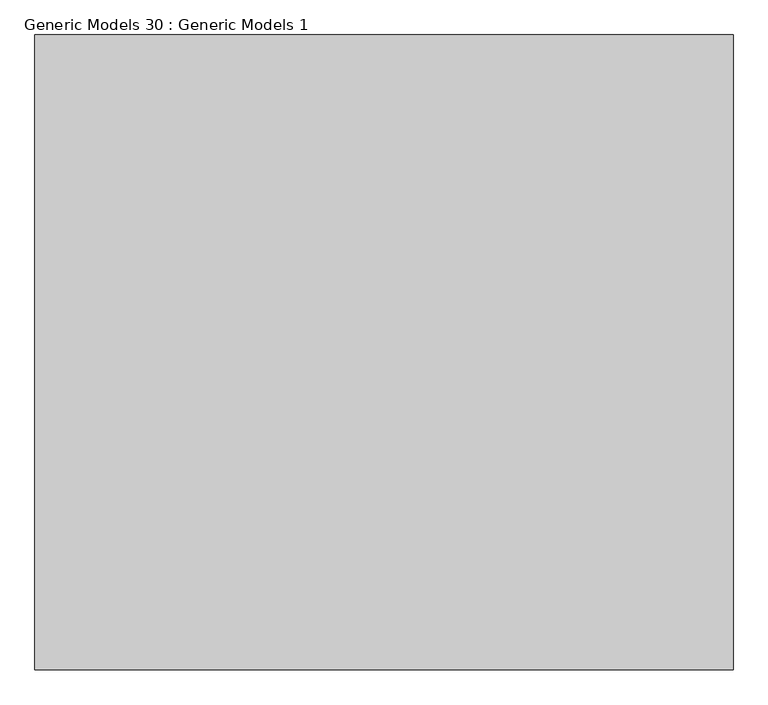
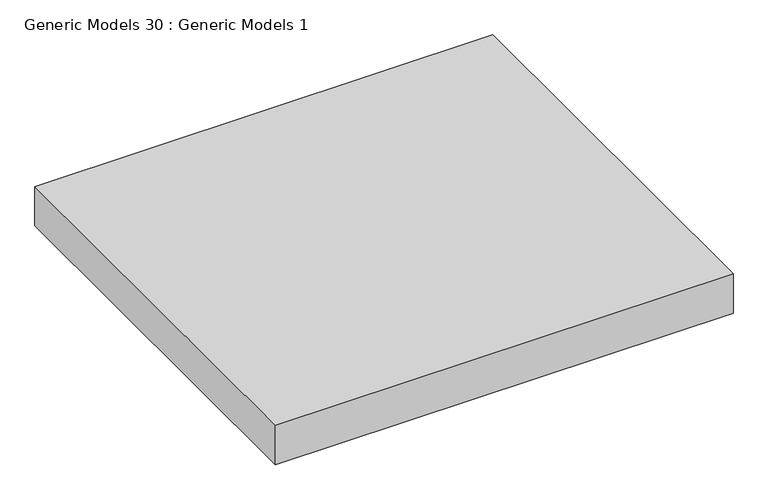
"""IFC4 building model written with IfcOpenShell, lengths in millimetres: proxy geometry, Generic Models 30 : Generic Models 1."""

from ifc_helpers import new_model, si_unit, origin, origin_with_axes, place, context, project, spatial, polyline, outline, extrude, source, transform, mapped, element, save


def generic_models_30_generic_models_1_937ea5b0(model_context):
    return source(origin(), model_context, "Body", "SweptSolid", [
        extrude(outline(polyline([(9644.9769358, -4286.5772826), (9644.9769358, -3286.5772826), (10744.9769358, -3286.5772826), (10744.9769358, -4286.5772826), (9644.9769358, -4286.5772826)])), origin_with_axes(), (0.0, 0.0, 1.0), 100.0),
    ])


if __name__ == "__main__":
    model = new_model("IFC4")
    model_context = context("Model", 3, world=origin())
    ifc_project = project(units=[si_unit("LENGTHUNIT", "METRE", prefix="MILLI")], contexts=[model_context])
    site = spatial("IfcSite", under=ifc_project)
    building = spatial("IfcBuilding", under=site)
    placement = place(None, origin())
    generic_models_30_generic_models_1_shape = generic_models_30_generic_models_1_937ea5b0(model_context)
    element("IfcBuildingElementProxy", 1, Name="Generic Models 30 : Generic Models 1", ObjectType="Generic Models 30 : Generic Models 1", at=placement, inside=building, context=model_context, shape_type="MappedRepresentation", body=[
        mapped(generic_models_30_generic_models_1_shape, transform((0.0, 0.0, 0.0), x_axis=(1.0, 0.0, 0.0), y_axis=(0.0, 1.0, 0.0), z_axis=(0.0, 0.0, 1.0))),
    ])
    save(model, "model.ifc")
